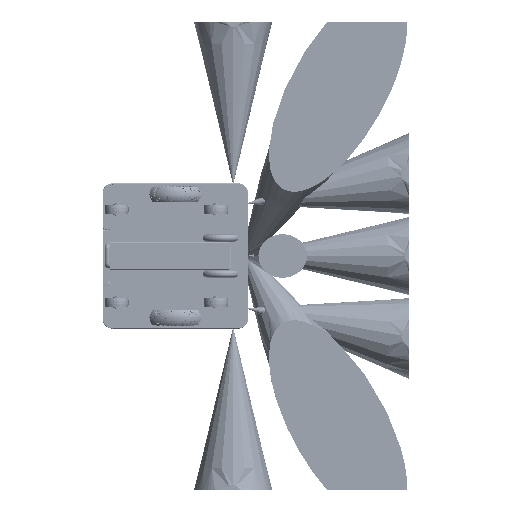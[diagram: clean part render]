
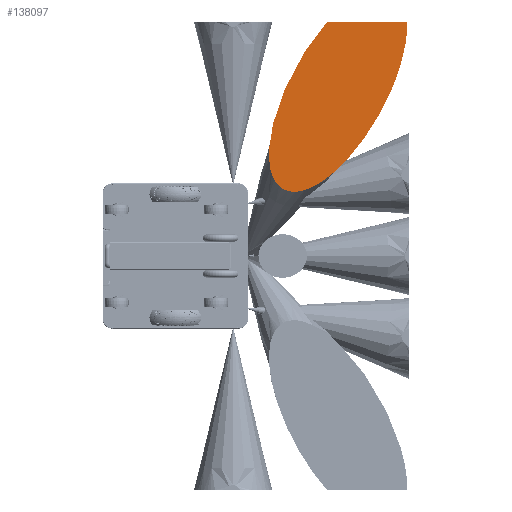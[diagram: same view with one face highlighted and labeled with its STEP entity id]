
A CAD part, front view. The second image highlights one B-rep face of the part: STEP entity #138097.
In plain terms, the highlighted planar face has unit normal (0, -1, 0).
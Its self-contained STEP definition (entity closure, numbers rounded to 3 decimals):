
#3736 = VERTEX_POINT ( 'NONE', #131448 ) ;
#10410 = CARTESIAN_POINT ( 'NONE',  ( 341.903, 0., 580.966 ) ) ;
#13015 = EDGE_CURVE ( 'NONE', #87781, #22477, #56892, .T. ) ;
#22477 = VERTEX_POINT ( 'NONE', #71209 ) ;
#28414 =( BOUNDED_CURVE ( )  B_SPLINE_CURVE ( 3, ( #146813, #189387, #192005, #228058 ),
 .UNSPECIFIED., .F., .F. ) 
 B_SPLINE_CURVE_WITH_KNOTS ( ( 4, 4 ),
 ( 2.692, 5.204 ),
 .UNSPECIFIED. ) 
 CURVE ( )  GEOMETRIC_REPRESENTATION_ITEM ( )  RATIONAL_B_SPLINE_CURVE ( ( 1., 0.54, 0.54, 1. ) ) 
 REPRESENTATION_ITEM ( '' )  );
#30391 = CARTESIAN_POINT ( 'NONE',  ( 268.213, 0., 389.655 ) ) ;
#46454 = CARTESIAN_POINT ( 'NONE',  ( 470.177, 0., 725. ) ) ;
#56892 =( BOUNDED_CURVE ( )  B_SPLINE_CURVE ( 3, ( #237609, #254983, #253687, #216299 ),
 .UNSPECIFIED., .F., .T. ) 
 B_SPLINE_CURVE_WITH_KNOTS ( ( 4, 4 ),
 ( 5.204, 5.664 ),
 .UNSPECIFIED. ) 
 CURVE ( )  GEOMETRIC_REPRESENTATION_ITEM ( )  RATIONAL_B_SPLINE_CURVE ( ( 1., 0.982, 0.982, 1. ) ) 
 REPRESENTATION_ITEM ( '' )  );
#65642 = LINE ( 'NONE', #226741, #67312 ) ;
#67099 = DIRECTION ( 'NONE',  ( 0., 1., 0. ) ) ;
#67312 = VECTOR ( 'NONE', #245401, 1000. ) ;
#67471 =( BOUNDED_CURVE ( )  B_SPLINE_CURVE ( 3, ( #46454, #10410, #30391, #190209 ),
 .UNSPECIFIED., .F., .F. ) 
 B_SPLINE_CURVE_WITH_KNOTS ( ( 4, 4 ),
 ( 1.077, 2.692 ),
 .UNSPECIFIED. ) 
 CURVE ( )  GEOMETRIC_REPRESENTATION_ITEM ( )  RATIONAL_B_SPLINE_CURVE ( ( 1., 0.794, 0.794, 1. ) ) 
 REPRESENTATION_ITEM ( '' )  );
#67883 = EDGE_CURVE ( 'NONE', #153479, #3736, #67471, .T. ) ;
#71209 = CARTESIAN_POINT ( 'NONE',  ( 718.578, 0., 725. ) ) ;
#87781 = VERTEX_POINT ( 'NONE', #245610 ) ;
#113522 = ORIENTED_EDGE ( 'NONE', *, *, #238870, .T. ) ;
#125115 = CARTESIAN_POINT ( 'NONE',  ( 470.177, 0., 725. ) ) ;
#131448 = CARTESIAN_POINT ( 'NONE',  ( 294.587, 0., 269.139 ) ) ;
#138097 = ADVANCED_FACE ( 'NONE', ( #178971 ), #226862, .F. ) ;
#146813 = CARTESIAN_POINT ( 'NONE',  ( 294.587, 0., 269.139 ) ) ;
#148175 = ORIENTED_EDGE ( 'NONE', *, *, #13015, .T. ) ;
#153479 = VERTEX_POINT ( 'NONE', #125115 ) ;
#166549 = ORIENTED_EDGE ( 'NONE', *, *, #208337, .T. ) ;
#166852 = CARTESIAN_POINT ( 'NONE',  ( 0., 0., 0. ) ) ;
#171182 = ORIENTED_EDGE ( 'NONE', *, *, #67883, .T. ) ;
#178971 = FACE_OUTER_BOUND ( 'NONE', #252967, .T. ) ;
#189387 = CARTESIAN_POINT ( 'NONE',  ( 345.656, 0., 35.785 ) ) ;
#190209 = CARTESIAN_POINT ( 'NONE',  ( 294.587, 0., 269.139 ) ) ;
#192005 = CARTESIAN_POINT ( 'NONE',  ( 595.729, 0., 238.676 ) ) ;
#198336 = AXIS2_PLACEMENT_3D ( 'NONE', #166852, #67099, #250792 ) ;
#208337 = EDGE_CURVE ( 'NONE', #22477, #153479, #65642, .T. ) ;
#216299 = CARTESIAN_POINT ( 'NONE',  ( 718.578, 0., 725. ) ) ;
#226741 = CARTESIAN_POINT ( 'NONE',  ( 0., 0., 725. ) ) ;
#226862 = PLANE ( 'NONE',  #198336 ) ;
#228058 = CARTESIAN_POINT ( 'NONE',  ( 699.596, 0., 597.733 ) ) ;
#237609 = CARTESIAN_POINT ( 'NONE',  ( 699.596, 0., 597.733 ) ) ;
#238870 = EDGE_CURVE ( 'NONE', #3736, #87781, #28414, .T. ) ;
#245401 = DIRECTION ( 'NONE',  ( -1., 0., 0. ) ) ;
#245610 = CARTESIAN_POINT ( 'NONE',  ( 699.596, 0., 597.733 ) ) ;
#250792 = DIRECTION ( 'NONE',  ( 0., 0., 1. ) ) ;
#252967 = EDGE_LOOP ( 'NONE', ( #171182, #113522, #148175, #166549 ) ) ;
#253687 = CARTESIAN_POINT ( 'NONE',  ( 719.727, 0., 688.24 ) ) ;
#254983 = CARTESIAN_POINT ( 'NONE',  ( 713.286, 0., 645.059 ) ) ;
